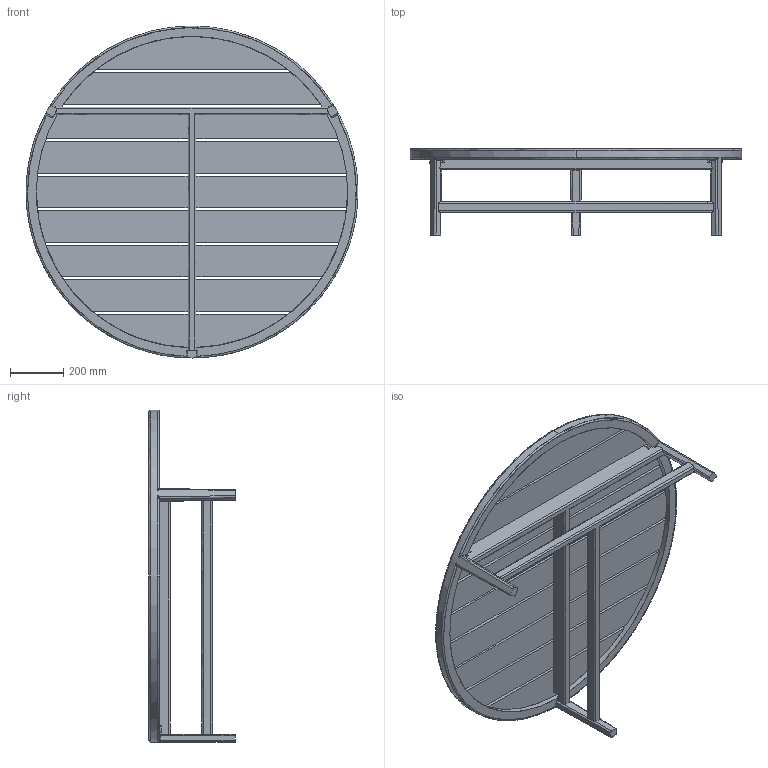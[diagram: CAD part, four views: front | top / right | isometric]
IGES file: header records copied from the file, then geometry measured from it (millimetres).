
Start section: SolidWorks IGES file using analytic representation for surfaces
Global section: file name: C:\Users\Utilizador\Desktop\Outdoor Files\579 Outdoor Coffee table\3D IGS\579 Outdoor Coffee table_3D IGS.IGS; native system: SolidWorks 2016; preprocessor: SolidWorks 2016; author: Utilizador; date: 220124.163252; units: millimetre
Bounding box: 1250 x 325 x 1250 mm (x, y, z)
Surface area: 3431306.5 mm2 (no closed solid volume)
Topology: 0 solids, 0 shells, 301 faces, 4293 edges, 4293 vertices
Faces by surface type: bspline 197, revolution 104
